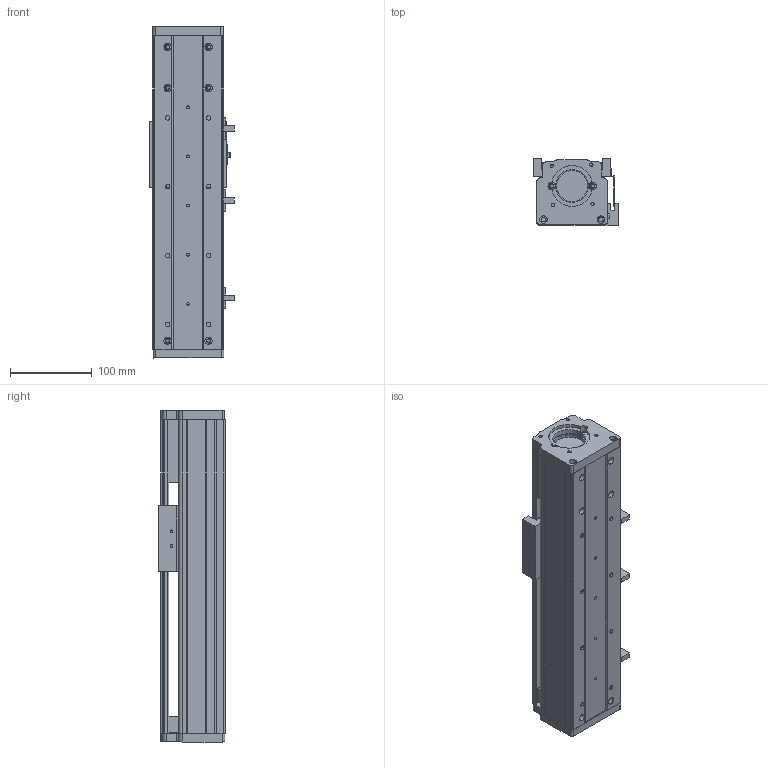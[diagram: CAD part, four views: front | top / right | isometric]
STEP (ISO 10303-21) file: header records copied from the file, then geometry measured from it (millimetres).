
FILE_DESCRIPTION (( 'STEP AP214' ), '1' );
FILE_NAME ('CF86-C-150-FW.STEP', '2020-01-15T07:51:55', ( '微软用户' ), ( '微软中国' ), 'SwSTEP 2.0', 'SolidWorks 2016', '' );
FILE_SCHEMA (( 'AUTOMOTIVE_DESIGN' ));
Length unit declared in the file: millimetre
Products named in the file (12): 86裔啣-150; 86耜啣; CF86-C-150-FW; 嫖萇羲壽; 75-86-95癹弇羲壽覜茼え; 86-60侜督萇儂釱(蜊輛); CF86賑輸; 02 86盓傅釱; 01 86嘐隅釱; EGW15CA賑輸; EGR15絳寢-150; 86臏倰第-150
Assembly tree (13 placements, depth 2):
  CF86-C-150-FW
    86耜啣
    86裔啣-150
    86臏倰第-150
    EGR15絳寢-150
    EGW15CA賑輸
    01 86嘐隅釱
    02 86盓傅釱
    CF86賑輸
    86-60侜督萇儂釱(蜊輛)
    75-86-95癹弇羲壽覜茼え
    嫖萇羲壽  x3
Bounding box: 103.42 x 81 x 405 mm (x, y, z)
Volume: 1375856.4 mm3; surface area: 416824.9 mm2
Topology: 13 solids, 13 shells, 637 faces, 1702 edges, 1132 vertices
Faces by surface type: plane 348, cylinder 289
Entity records: 20164 total; most frequent: CARTESIAN_POINT 3409, DIRECTION 3290, ORIENTED_EDGE 3116, EDGE_CURVE 1558, AXIS2_PLACEMENT_3D 1165, VERTEX_POINT 1036, VECTOR 960, LINE 960
